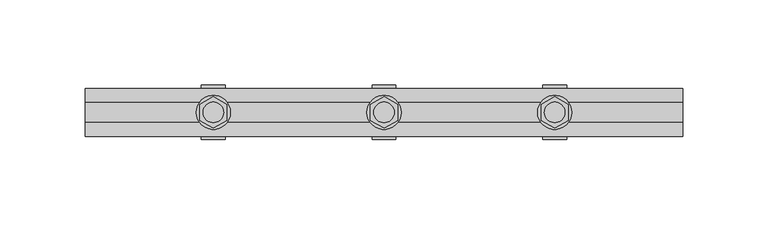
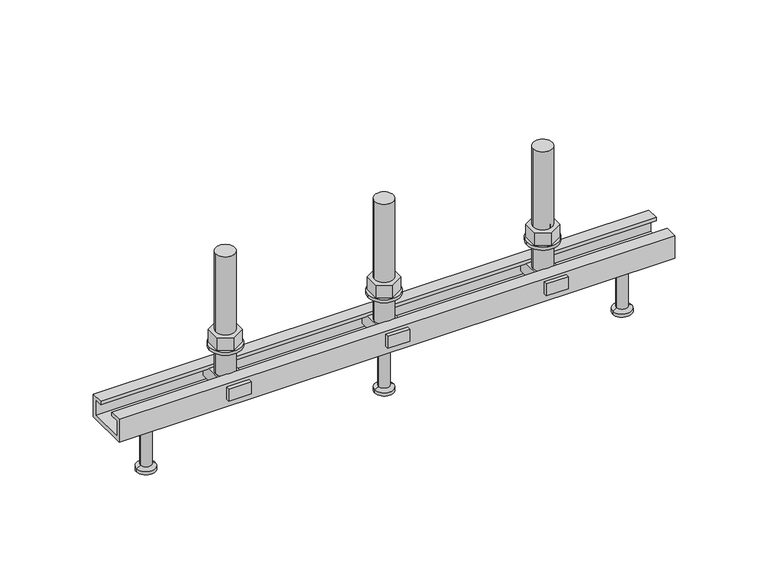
"""IFC4 building model written with IfcOpenShell, lengths in millimetres: fastener geometry, JTA-K JORDAHL® AnchorChannels : JTA-K L=350 mm."""

from ifc_helpers import new_model, si_unit, point, frame, frame_2d, origin, place, context, project, spatial, polyline, circle_curve, trimmed, segment, composite_curve, outline, extrude, source, transform, mapped, element, save
from ifc_brep_helpers import plane_surface, cylinder_surface, revolved_surface, advanced_brep


def fastener_e9d794d6(model_context):
    return source(origin(), model_context, "Body", "SolidModel", [
        extrude(outline(polyline([(175.0, 9.2376043), (183.0, 4.6188022), (183.0, -4.6188022), (175.0, -9.2376043), (167.0, -4.6188022), (167.0, 4.6188022), (175.0, 9.2376043)]), holes=[composite_curve([segment(trimmed(circle_curve(frame_2d((175.0, 0.0)), 4.0), [point((171.0, 0.0))], [point((179.0, 0.0))], True, "CARTESIAN"), True, "CONTINUOUS"), segment(trimmed(circle_curve(frame_2d((175.0, 0.0)), 4.0), [point((179.0, 0.0))], [point((171.0, 0.0))], True, "CARTESIAN"), True, "CONTINUOUS")], self_intersect=False)]), frame((0.0, 0.0, 17.0), z_axis=(0.0, 0.0, 1.0), x_axis=(1.0, 0.0, 0.0)), (0.0, 0.0, 1.0), 8.4),
        extrude(outline(composite_curve([segment(trimmed(circle_curve(frame_2d((175.0, 0.0)), 10.0), [point((165.0, 0.0))], [point((185.0, 0.0))], False, "CARTESIAN"), True, "CONTINUOUS"), segment(trimmed(circle_curve(frame_2d((175.0, 0.0)), 10.0), [point((185.0, 0.0))], [point((165.0, 0.0))], False, "CARTESIAN"), True, "CONTINUOUS")], self_intersect=False), holes=[composite_curve([segment(trimmed(circle_curve(frame_2d((175.0, 0.0)), 5.25), [point((169.75, 0.0))], [point((180.25, 0.0))], True, "CARTESIAN"), True, "CONTINUOUS"), segment(trimmed(circle_curve(frame_2d((175.0, 0.0)), 5.25), [point((180.25, 0.0))], [point((169.75, 0.0))], True, "CARTESIAN"), True, "CONTINUOUS")], self_intersect=False)]), frame((0.0, 0.0, 15.0), z_axis=(0.0, 0.0, 1.0), x_axis=(1.0, 0.0, 0.0)), (0.0, 0.0, 1.0), 2.0),
        advanced_brep(
        [(182.0, 16.0, -2.3), (182.0, -16.0, -2.3), (182.0, -16.0, -10.3), (182.0, 16.0, -10.3), (168.0, 16.0, -2.3), (168.0, 16.0, -10.3), (168.0, -16.0, -10.3), (168.0, -16.0, -2.3), (181.0, 0.0, -2.3), (169.0, 0.0, -2.3), (169.0, 0.0, 77.7), (181.0, 0.0, 77.7)],
        [
            (0, 1),
            (1, 2),
            (2, 3),
            (3, 0),
            (4, 5),
            (5, 6),
            (6, 7),
            (7, 4),
            (0, 4),
            (7, 1),
            (8, 9, circle_curve(frame((175.0, 0.0, -2.3), z_axis=(0.0, 0.0, -1.0), x_axis=(1.0, 0.0, 0.0)), 6.0)),
            (9, 8, circle_curve(frame((175.0, 0.0, -2.3), z_axis=(0.0, 0.0, -1.0), x_axis=(1.0, 0.0, 0.0)), 6.0)),
            (6, 2),
            (5, 3),
            (10, 11, circle_curve(frame((175.0, 0.0, 77.7), z_axis=(0.0, 0.0, 1.0), x_axis=(1.0, 0.0, 0.0)), 6.0)),
            (11, 10, circle_curve(frame((175.0, 0.0, 77.7), z_axis=(0.0, 0.0, 1.0), x_axis=(1.0, 0.0, 0.0)), 6.0)),
            (10, 9),
            (8, 11),
        ],
        [
            plane_surface(frame((182.0, -16.0, -2.3), z_axis=(1.0, 0.0, 0.0), x_axis=(0.0, -1.0, 0.0))),
            plane_surface(frame((168.0, -16.0, -2.3), z_axis=(-1.0, 0.0, 0.0), x_axis=(0.0, 1.0, 0.0))),
            plane_surface(frame((182.0, 16.0, -2.3), z_axis=(0.0, 0.0, 1.0), x_axis=(-1.0, 0.0, 0.0))),
            plane_surface(frame((182.0, -16.0, -2.3), z_axis=(0.0, -1.0, 0.0), x_axis=(-1.0, 0.0, 0.0))),
            plane_surface(frame((182.0, -16.0, -10.3), z_axis=(0.0, 0.0, -1.0), x_axis=(-1.0, 0.0, 0.0))),
            plane_surface(frame((182.0, 16.0, -10.3), z_axis=(0.0, 1.0, 0.0), x_axis=(-1.0, 0.0, 0.0))),
            plane_surface(frame((181.0, 0.0, 77.7), z_axis=(0.0, 0.0, 1.0), x_axis=(0.0, 1.0, 0.0))),
            cylinder_surface(frame((175.0, 0.0, -2.3), z_axis=(0.0, 0.0, 1.0), x_axis=(1.0, 0.0, 0.0)), 6.0),
        ],
        [
            (0, [[1, 2, 3, 4]]),
            (1, [[5, 6, 7, 8]]),
            (2, [[-1, 9, -8, 10], [11, 12]]),
            (3, [[-2, -10, -7, 13]]),
            (4, [[-3, -13, -6, 14]]),
            (5, [[-4, -14, -5, -9]]),
            (6, [[15, 16]]),
            (7, [[-15, 17, -11, 18]]),
            (7, [[-16, -18, -12, -17]]),
        ],
    ),
        advanced_brep(
        [(175.0, 0.0, -15.0), (185.5, 0.0, -15.0), (164.5, 0.0, -15.0), (169.0, 0.0, -50.0), (181.0, 0.0, -50.0), (175.0, 0.0, -50.0), (169.0, 0.0, -48.0), (181.0, 0.0, -48.0), (171.5, 0.0, -46.5566243), (178.5, 0.0, -46.5566243), (171.5, 0.0, -17.5), (178.5, 0.0, -17.5)],
        [
            (0, 1),
            (1, 2, circle_curve(frame((175.0, 0.0, -15.0), z_axis=(0.0, 0.0, 1.0), x_axis=(1.0, 0.0, 0.0)), 10.5)),
            (2, 0),
            (2, 1, circle_curve(frame((175.0, 0.0, -15.0), z_axis=(0.0, 0.0, 1.0), x_axis=(1.0, 0.0, 0.0)), 10.5)),
            (3, 4, circle_curve(frame((175.0, 0.0, -50.0), z_axis=(0.0, 0.0, -1.0), x_axis=(1.0, 0.0, 0.0)), 6.0)),
            (4, 5),
            (5, 3),
            (4, 3, circle_curve(frame((175.0, 0.0, -50.0), z_axis=(0.0, 0.0, -1.0), x_axis=(1.0, 0.0, 0.0)), 6.0)),
            (6, 7, circle_curve(frame((175.0, 0.0, -48.0), z_axis=(0.0, 0.0, -1.0), x_axis=(1.0, 0.0, 0.0)), 6.0)),
            (7, 4),
            (3, 6),
            (7, 6, circle_curve(frame((175.0, 0.0, -48.0), z_axis=(0.0, 0.0, -1.0), x_axis=(1.0, 0.0, 0.0)), 6.0)),
            (8, 9, circle_curve(frame((175.0, 0.0, -46.5566243), z_axis=(0.0, 0.0, -1.0), x_axis=(1.0, 0.0, 0.0)), 3.5)),
            (9, 7),
            (6, 8),
            (9, 8, circle_curve(frame((175.0, 0.0, -46.5566243), z_axis=(0.0, 0.0, -1.0), x_axis=(1.0, 0.0, 0.0)), 3.5)),
            (10, 11, circle_curve(frame((175.0, 0.0, -17.5), z_axis=(0.0, 0.0, -1.0), x_axis=(1.0, 0.0, 0.0)), 3.5)),
            (11, 9),
            (8, 10),
            (11, 10, circle_curve(frame((175.0, 0.0, -17.5), z_axis=(0.0, 0.0, -1.0), x_axis=(1.0, 0.0, 0.0)), 3.5)),
            (1, 11),
            (10, 2),
        ],
        [
            plane_surface(frame((175.0, 0.0, -15.0), z_axis=(0.0, 0.0, 1.0), x_axis=(1.0, 0.0, 0.0))),
            plane_surface(frame((175.0, 0.0, -50.0), z_axis=(0.0, 0.0, -1.0), x_axis=(1.0, 0.0, 0.0))),
            cylinder_surface(frame((175.0, 0.0, 2249.3150031), z_axis=(0.0, 0.0, 1.0), x_axis=(1.0, 0.0, 0.0)), 6.0),
            revolved_surface(polyline([(181.0, 0.0, -48.0), (178.5, 0.0, -46.5566243)]), (175.0, 0.0, 2249.3150031), (0.0, 0.0, 1.0)),
            cylinder_surface(frame((175.0, 0.0, 2249.3150031), z_axis=(0.0, 0.0, 1.0), x_axis=(1.0, 0.0, 0.0)), 3.5),
            revolved_surface(polyline([(178.5, 0.0, -17.5), (185.5, 0.0, -15.0)]), (175.0, 0.0, 2249.3150031), (0.0, 0.0, 1.0)),
        ],
        [
            (0, [[1, 2, 3]]),
            (0, [[-3, 4, -1]]),
            (1, [[5, 6, 7]]),
            (1, [[8, -7, -6]]),
            (2, [[9, 10, -5, 11]]),
            (2, [[12, -11, -8, -10]]),
            (3, [[13, 14, -9, 15]]),
            (3, [[16, -15, -12, -14]]),
            (4, [[17, 18, -13, 19]]),
            (4, [[20, -19, -16, -18]]),
            (5, [[-2, 21, -17, 22]]),
            (5, [[-4, -22, -20, -21]]),
        ],
    ),
        extrude(outline(polyline([(275.0, 9.2376043), (283.0, 4.6188022), (283.0, -4.6188022), (275.0, -9.2376043), (267.0, -4.6188022), (267.0, 4.6188022), (275.0, 9.2376043)]), holes=[composite_curve([segment(trimmed(circle_curve(frame_2d((275.0, 0.0)), 4.0), [point((271.0, 0.0))], [point((279.0, 0.0))], True, "CARTESIAN"), True, "CONTINUOUS"), segment(trimmed(circle_curve(frame_2d((275.0, 0.0)), 4.0), [point((279.0, 0.0))], [point((271.0, 0.0))], True, "CARTESIAN"), True, "CONTINUOUS")], self_intersect=False)]), frame((0.0, 0.0, 17.0), z_axis=(0.0, 0.0, 1.0), x_axis=(1.0, 0.0, 0.0)), (0.0, 0.0, 1.0), 8.4),
        extrude(outline(composite_curve([segment(trimmed(circle_curve(frame_2d((275.0, 0.0)), 10.0), [point((265.0, 0.0))], [point((285.0, 0.0))], False, "CARTESIAN"), True, "CONTINUOUS"), segment(trimmed(circle_curve(frame_2d((275.0, 0.0)), 10.0), [point((285.0, 0.0))], [point((265.0, 0.0))], False, "CARTESIAN"), True, "CONTINUOUS")], self_intersect=False), holes=[composite_curve([segment(trimmed(circle_curve(frame_2d((275.0, 0.0)), 5.25), [point((269.75, 0.0))], [point((280.25, 0.0))], True, "CARTESIAN"), True, "CONTINUOUS"), segment(trimmed(circle_curve(frame_2d((275.0, 0.0)), 5.25), [point((280.25, 0.0))], [point((269.75, 0.0))], True, "CARTESIAN"), True, "CONTINUOUS")], self_intersect=False)]), frame((0.0, 0.0, 15.0), z_axis=(0.0, 0.0, 1.0), x_axis=(1.0, 0.0, 0.0)), (0.0, 0.0, 1.0), 2.0),
        extrude(outline(polyline([(75.0, 9.2376043), (83.0, 4.6188022), (83.0, -4.6188022), (75.0, -9.2376043), (67.0, -4.6188022), (67.0, 4.6188022), (75.0, 9.2376043)]), holes=[composite_curve([segment(trimmed(circle_curve(frame_2d((75.0, 0.0)), 4.0), [point((71.0, 0.0))], [point((79.0, 0.0))], True, "CARTESIAN"), True, "CONTINUOUS"), segment(trimmed(circle_curve(frame_2d((75.0, 0.0)), 4.0), [point((79.0, 0.0))], [point((71.0, 0.0))], True, "CARTESIAN"), True, "CONTINUOUS")], self_intersect=False)]), frame((0.0, 0.0, 17.0), z_axis=(0.0, 0.0, 1.0), x_axis=(1.0, 0.0, 0.0)), (0.0, 0.0, 1.0), 8.4),
        extrude(outline(composite_curve([segment(trimmed(circle_curve(frame_2d((75.0, 0.0)), 10.0), [point((65.0, 0.0))], [point((85.0, 0.0))], False, "CARTESIAN"), True, "CONTINUOUS"), segment(trimmed(circle_curve(frame_2d((75.0, 0.0)), 10.0), [point((85.0, 0.0))], [point((65.0, 0.0))], False, "CARTESIAN"), True, "CONTINUOUS")], self_intersect=False), holes=[composite_curve([segment(trimmed(circle_curve(frame_2d((75.0, 0.0)), 5.25), [point((69.75, 0.0))], [point((80.25, 0.0))], True, "CARTESIAN"), True, "CONTINUOUS"), segment(trimmed(circle_curve(frame_2d((75.0, 0.0)), 5.25), [point((80.25, 0.0))], [point((69.75, 0.0))], True, "CARTESIAN"), True, "CONTINUOUS")], self_intersect=False)]), frame((0.0, 0.0, 15.0), z_axis=(0.0, 0.0, 1.0), x_axis=(1.0, 0.0, 0.0)), (0.0, 0.0, 1.0), 2.0),
        advanced_brep(
        [(282.0, 16.0, -2.3), (282.0, -16.0, -2.3), (282.0, -16.0, -10.3), (282.0, 16.0, -10.3), (268.0, 16.0, -2.3), (268.0, 16.0, -10.3), (268.0, -16.0, -10.3), (268.0, -16.0, -2.3), (281.0, 0.0, -2.3), (269.0, 0.0, -2.3), (269.0, 0.0, 77.7), (281.0, 0.0, 77.7)],
        [
            (0, 1),
            (1, 2),
            (2, 3),
            (3, 0),
            (4, 5),
            (5, 6),
            (6, 7),
            (7, 4),
            (0, 4),
            (7, 1),
            (8, 9, circle_curve(frame((275.0, 0.0, -2.3), z_axis=(0.0, 0.0, -1.0), x_axis=(1.0, 0.0, 0.0)), 6.0)),
            (9, 8, circle_curve(frame((275.0, 0.0, -2.3), z_axis=(0.0, 0.0, -1.0), x_axis=(1.0, 0.0, 0.0)), 6.0)),
            (6, 2),
            (5, 3),
            (10, 11, circle_curve(frame((275.0, 0.0, 77.7), z_axis=(0.0, 0.0, 1.0), x_axis=(1.0, 0.0, 0.0)), 6.0)),
            (11, 10, circle_curve(frame((275.0, 0.0, 77.7), z_axis=(0.0, 0.0, 1.0), x_axis=(1.0, 0.0, 0.0)), 6.0)),
            (10, 9),
            (8, 11),
        ],
        [
            plane_surface(frame((282.0, -16.0, -2.3), z_axis=(1.0, 0.0, 0.0), x_axis=(0.0, -1.0, 0.0))),
            plane_surface(frame((268.0, -16.0, -2.3), z_axis=(-1.0, 0.0, 0.0), x_axis=(0.0, 1.0, 0.0))),
            plane_surface(frame((282.0, 16.0, -2.3), z_axis=(0.0, 0.0, 1.0), x_axis=(-1.0, 0.0, 0.0))),
            plane_surface(frame((282.0, -16.0, -2.3), z_axis=(0.0, -1.0, 0.0), x_axis=(-1.0, 0.0, 0.0))),
            plane_surface(frame((282.0, -16.0, -10.3), z_axis=(0.0, 0.0, -1.0), x_axis=(-1.0, 0.0, 0.0))),
            plane_surface(frame((282.0, 16.0, -10.3), z_axis=(0.0, 1.0, 0.0), x_axis=(-1.0, 0.0, 0.0))),
            plane_surface(frame((281.0, 0.0, 77.7), z_axis=(0.0, 0.0, 1.0), x_axis=(0.0, 1.0, 0.0))),
            cylinder_surface(frame((275.0, 0.0, -2.3), z_axis=(0.0, 0.0, 1.0), x_axis=(1.0, 0.0, 0.0)), 6.0),
        ],
        [
            (0, [[1, 2, 3, 4]]),
            (1, [[5, 6, 7, 8]]),
            (2, [[-1, 9, -8, 10], [11, 12]]),
            (3, [[-2, -10, -7, 13]]),
            (4, [[-3, -13, -6, 14]]),
            (5, [[-4, -14, -5, -9]]),
            (6, [[15, 16]]),
            (7, [[-15, 17, -11, 18]]),
            (7, [[-16, -18, -12, -17]]),
        ],
    ),
        advanced_brep(
        [(82.0, 16.0, -2.3), (82.0, -16.0, -2.3), (82.0, -16.0, -10.3), (82.0, 16.0, -10.3), (68.0, 16.0, -2.3), (68.0, 16.0, -10.3), (68.0, -16.0, -10.3), (68.0, -16.0, -2.3), (81.0, 0.0, -2.3), (69.0, 0.0, -2.3), (69.0, 0.0, 77.7), (81.0, 0.0, 77.7)],
        [
            (0, 1),
            (1, 2),
            (2, 3),
            (3, 0),
            (4, 5),
            (5, 6),
            (6, 7),
            (7, 4),
            (0, 4),
            (7, 1),
            (8, 9, circle_curve(frame((75.0, 0.0, -2.3), z_axis=(0.0, 0.0, -1.0), x_axis=(1.0, 0.0, 0.0)), 6.0)),
            (9, 8, circle_curve(frame((75.0, 0.0, -2.3), z_axis=(0.0, 0.0, -1.0), x_axis=(1.0, 0.0, 0.0)), 6.0)),
            (6, 2),
            (5, 3),
            (10, 11, circle_curve(frame((75.0, 0.0, 77.7), z_axis=(0.0, 0.0, 1.0), x_axis=(1.0, 0.0, 0.0)), 6.0)),
            (11, 10, circle_curve(frame((75.0, 0.0, 77.7), z_axis=(0.0, 0.0, 1.0), x_axis=(1.0, 0.0, 0.0)), 6.0)),
            (10, 9),
            (8, 11),
        ],
        [
            plane_surface(frame((82.0, -16.0, -2.3), z_axis=(1.0, 0.0, 0.0), x_axis=(0.0, -1.0, 0.0))),
            plane_surface(frame((68.0, -16.0, -2.3), z_axis=(-1.0, 0.0, 0.0), x_axis=(0.0, 1.0, 0.0))),
            plane_surface(frame((82.0, 16.0, -2.3), z_axis=(0.0, 0.0, 1.0), x_axis=(-1.0, 0.0, 0.0))),
            plane_surface(frame((82.0, -16.0, -2.3), z_axis=(0.0, -1.0, 0.0), x_axis=(-1.0, 0.0, 0.0))),
            plane_surface(frame((82.0, -16.0, -10.3), z_axis=(0.0, 0.0, -1.0), x_axis=(-1.0, 0.0, 0.0))),
            plane_surface(frame((82.0, 16.0, -10.3), z_axis=(0.0, 1.0, 0.0), x_axis=(-1.0, 0.0, 0.0))),
            plane_surface(frame((81.0, 0.0, 77.7), z_axis=(0.0, 0.0, 1.0), x_axis=(0.0, 1.0, 0.0))),
            cylinder_surface(frame((75.0, 0.0, -2.3), z_axis=(0.0, 0.0, 1.0), x_axis=(1.0, 0.0, 0.0)), 6.0),
        ],
        [
            (0, [[1, 2, 3, 4]]),
            (1, [[5, 6, 7, 8]]),
            (2, [[-1, 9, -8, 10], [11, 12]]),
            (3, [[-2, -10, -7, 13]]),
            (4, [[-3, -13, -6, 14]]),
            (5, [[-4, -14, -5, -9]]),
            (6, [[15, 16]]),
            (7, [[-15, 17, -11, 18]]),
            (7, [[-16, -18, -12, -17]]),
        ],
    ),
        advanced_brep(
        [(325.0, 0.0, -15.0), (335.5, 0.0, -15.0), (314.5, 0.0, -15.0), (319.0, 0.0, -50.0), (331.0, 0.0, -50.0), (325.0, 0.0, -50.0), (319.0, 0.0, -48.0), (331.0, 0.0, -48.0), (321.5, 0.0, -46.5566243), (328.5, 0.0, -46.5566243), (321.5, 0.0, -17.5), (328.5, 0.0, -17.5)],
        [
            (0, 1),
            (1, 2, circle_curve(frame((325.0, 0.0, -15.0), z_axis=(0.0, 0.0, 1.0), x_axis=(1.0, 0.0, 0.0)), 10.5)),
            (2, 0),
            (2, 1, circle_curve(frame((325.0, 0.0, -15.0), z_axis=(0.0, 0.0, 1.0), x_axis=(1.0, 0.0, 0.0)), 10.5)),
            (3, 4, circle_curve(frame((325.0, 0.0, -50.0), z_axis=(0.0, 0.0, -1.0), x_axis=(1.0, 0.0, 0.0)), 6.0)),
            (4, 5),
            (5, 3),
            (4, 3, circle_curve(frame((325.0, 0.0, -50.0), z_axis=(0.0, 0.0, -1.0), x_axis=(1.0, 0.0, 0.0)), 6.0)),
            (6, 7, circle_curve(frame((325.0, 0.0, -48.0), z_axis=(0.0, 0.0, -1.0), x_axis=(1.0, 0.0, 0.0)), 6.0)),
            (7, 4),
            (3, 6),
            (7, 6, circle_curve(frame((325.0, 0.0, -48.0), z_axis=(0.0, 0.0, -1.0), x_axis=(1.0, 0.0, 0.0)), 6.0)),
            (8, 9, circle_curve(frame((325.0, 0.0, -46.5566243), z_axis=(0.0, 0.0, -1.0), x_axis=(1.0, 0.0, 0.0)), 3.5)),
            (9, 7),
            (6, 8),
            (9, 8, circle_curve(frame((325.0, 0.0, -46.5566243), z_axis=(0.0, 0.0, -1.0), x_axis=(1.0, 0.0, 0.0)), 3.5)),
            (10, 11, circle_curve(frame((325.0, 0.0, -17.5), z_axis=(0.0, 0.0, -1.0), x_axis=(1.0, 0.0, 0.0)), 3.5)),
            (11, 9),
            (8, 10),
            (11, 10, circle_curve(frame((325.0, 0.0, -17.5), z_axis=(0.0, 0.0, -1.0), x_axis=(1.0, 0.0, 0.0)), 3.5)),
            (1, 11),
            (10, 2),
        ],
        [
            plane_surface(frame((325.0, 0.0, -15.0), z_axis=(0.0, 0.0, 1.0), x_axis=(1.0, 0.0, 0.0))),
            plane_surface(frame((325.0, 0.0, -50.0), z_axis=(0.0, 0.0, -1.0), x_axis=(1.0, 0.0, 0.0))),
            cylinder_surface(frame((325.0, 0.0, 2249.3150031), z_axis=(0.0, 0.0, 1.0), x_axis=(1.0, 0.0, 0.0)), 6.0),
            revolved_surface(polyline([(331.0, 0.0, -48.0), (328.5, 0.0, -46.5566243)]), (325.0, 0.0, 2249.3150031), (0.0, 0.0, 1.0)),
            cylinder_surface(frame((325.0, 0.0, 2249.3150031), z_axis=(0.0, 0.0, 1.0), x_axis=(1.0, 0.0, 0.0)), 3.5),
            revolved_surface(polyline([(328.5, 0.0, -17.5), (335.5, 0.0, -15.0)]), (325.0, 0.0, 2249.3150031), (0.0, 0.0, 1.0)),
        ],
        [
            (0, [[1, 2, 3]]),
            (0, [[-3, 4, -1]]),
            (1, [[5, 6, 7]]),
            (1, [[8, -7, -6]]),
            (2, [[9, 10, -5, 11]]),
            (2, [[12, -11, -8, -10]]),
            (3, [[13, 14, -9, 15]]),
            (3, [[16, -15, -12, -14]]),
            (4, [[17, 18, -13, 19]]),
            (4, [[20, -19, -16, -18]]),
            (5, [[-2, 21, -17, 22]]),
            (5, [[-4, -22, -20, -21]]),
        ],
    ),
        advanced_brep(
        [(25.0, 0.0, -15.0), (35.5, 0.0, -15.0), (14.5, 0.0, -15.0), (19.0, 0.0, -50.0), (31.0, 0.0, -50.0), (25.0, 0.0, -50.0), (19.0, 0.0, -48.0), (31.0, 0.0, -48.0), (21.5, 0.0, -46.5566243), (28.5, 0.0, -46.5566243), (21.5, 0.0, -17.5), (28.5, 0.0, -17.5)],
        [
            (0, 1),
            (1, 2, circle_curve(frame((25.0, 0.0, -15.0), z_axis=(0.0, 0.0, 1.0), x_axis=(1.0, 0.0, 0.0)), 10.5)),
            (2, 0),
            (2, 1, circle_curve(frame((25.0, 0.0, -15.0), z_axis=(0.0, 0.0, 1.0), x_axis=(1.0, 0.0, 0.0)), 10.5)),
            (3, 4, circle_curve(frame((25.0, 0.0, -50.0), z_axis=(0.0, 0.0, -1.0), x_axis=(1.0, 0.0, 0.0)), 6.0)),
            (4, 5),
            (5, 3),
            (4, 3, circle_curve(frame((25.0, 0.0, -50.0), z_axis=(0.0, 0.0, -1.0), x_axis=(1.0, 0.0, 0.0)), 6.0)),
            (6, 7, circle_curve(frame((25.0, 0.0, -48.0), z_axis=(0.0, 0.0, -1.0), x_axis=(1.0, 0.0, 0.0)), 6.0)),
            (7, 4),
            (3, 6),
            (7, 6, circle_curve(frame((25.0, 0.0, -48.0), z_axis=(0.0, 0.0, -1.0), x_axis=(1.0, 0.0, 0.0)), 6.0)),
            (8, 9, circle_curve(frame((25.0, 0.0, -46.5566243), z_axis=(0.0, 0.0, -1.0), x_axis=(1.0, 0.0, 0.0)), 3.5)),
            (9, 7),
            (6, 8),
            (9, 8, circle_curve(frame((25.0, 0.0, -46.5566243), z_axis=(0.0, 0.0, -1.0), x_axis=(1.0, 0.0, 0.0)), 3.5)),
            (10, 11, circle_curve(frame((25.0, 0.0, -17.5), z_axis=(0.0, 0.0, -1.0), x_axis=(1.0, 0.0, 0.0)), 3.5)),
            (11, 9),
            (8, 10),
            (11, 10, circle_curve(frame((25.0, 0.0, -17.5), z_axis=(0.0, 0.0, -1.0), x_axis=(1.0, 0.0, 0.0)), 3.5)),
            (1, 11),
            (10, 2),
        ],
        [
            plane_surface(frame((25.0, 0.0, -15.0), z_axis=(0.0, 0.0, 1.0), x_axis=(1.0, 0.0, 0.0))),
            plane_surface(frame((25.0, 0.0, -50.0), z_axis=(0.0, 0.0, -1.0), x_axis=(1.0, 0.0, 0.0))),
            cylinder_surface(frame((25.0, 0.0, 2249.3150031), z_axis=(0.0, 0.0, 1.0), x_axis=(1.0, 0.0, 0.0)), 6.0),
            revolved_surface(polyline([(31.0, 0.0, -48.0), (28.5, 0.0, -46.5566243)]), (25.0, 0.0, 2249.3150031), (0.0, 0.0, 1.0)),
            cylinder_surface(frame((25.0, 0.0, 2249.3150031), z_axis=(0.0, 0.0, 1.0), x_axis=(1.0, 0.0, 0.0)), 3.5),
            revolved_surface(polyline([(28.5, 0.0, -17.5), (35.5, 0.0, -15.0)]), (25.0, 0.0, 2249.3150031), (0.0, 0.0, 1.0)),
        ],
        [
            (0, [[1, 2, 3]]),
            (0, [[-3, 4, -1]]),
            (1, [[5, 6, 7]]),
            (1, [[8, -7, -6]]),
            (2, [[9, 10, -5, 11]]),
            (2, [[12, -11, -8, -10]]),
            (3, [[13, 14, -9, 15]]),
            (3, [[16, -15, -12, -14]]),
            (4, [[17, 18, -13, 19]]),
            (4, [[20, -19, -16, -18]]),
            (5, [[-2, 21, -17, 22]]),
            (5, [[-4, -22, -20, -21]]),
        ],
    ),
        extrude(outline(polyline([(14.0, 0.0), (14.0, -15.0), (-14.0, -15.0), (-14.0, 0.0), (-6.0, 0.0), (-6.0, -2.3), (-11.7, -2.3), (-11.7, -12.7), (11.7, -12.7), (11.7, -2.3), (6.0, -2.3), (6.0, 0.0), (14.0, 0.0)])), frame((0.0, 0.0, 0.0), z_axis=(1.0, 0.0, 0.0), x_axis=(0.0, 1.0, 0.0)), (0.0, 0.0, 1.0), 350.0),
    ])


if __name__ == "__main__":
    model = new_model("IFC4")
    model_context = context("Model", 3, world=origin())
    ifc_project = project(units=[si_unit("LENGTHUNIT", "METRE", prefix="MILLI")], contexts=[model_context])
    site = spatial("IfcSite", under=ifc_project)
    building = spatial("IfcBuilding", under=site)
    placement = place(None, origin())
    fastener_shape = fastener_e9d794d6(model_context)
    element("IfcFastener", 1, ObjectType="JTA-K JORDAHL® AnchorChannels : JTA-K L=350 mm", at=placement, inside=building, context=model_context, shape_type="MappedRepresentation", body=[
        mapped(fastener_shape, transform((0.0, 0.0, 0.0), x_axis=(1.0, 0.0, 0.0), y_axis=(0.0, 1.0, 0.0), z_axis=(0.0, 0.0, 1.0))),
    ])
    save(model, "model.ifc")
